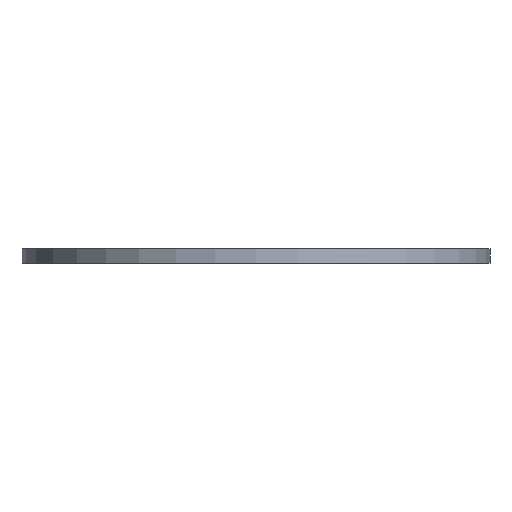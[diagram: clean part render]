
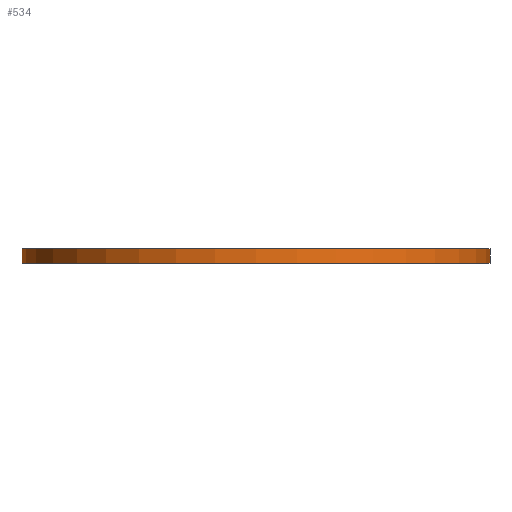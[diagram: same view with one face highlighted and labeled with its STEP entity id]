
A CAD part, front view. The second image highlights one B-rep face of the part: STEP entity #534.
In plain terms, the highlighted cylindrical face has radius 412.5 mm (diameter 825 mm), a full revolution.
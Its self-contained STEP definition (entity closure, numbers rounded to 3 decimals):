
#40=FACE_BOUND($,#170,.T.);
#118=FACE_OUTER_BOUND($,#169,.T.);
#169=EDGE_LOOP($,(#429));
#170=EDGE_LOOP($,(#430));
#273=CIRCLE($,#616,412.5);
#274=CIRCLE($,#617,412.5);
#325=VERTEX_POINT($,#909);
#326=VERTEX_POINT($,#911);
#377=EDGE_CURVE($,#325,#325,#273,.T.);
#378=EDGE_CURVE($,#326,#326,#274,.T.);
#429=ORIENTED_EDGE($,*,*,#377,.F.);
#430=ORIENTED_EDGE($,*,*,#378,.F.);
#508=CYLINDRICAL_SURFACE($,#615,412.5);
#534=ADVANCED_FACE($,(#118,#40),#508,.T.);
#615=AXIS2_PLACEMENT_3D($,#908,#772,#773);
#616=AXIS2_PLACEMENT_3D($,#910,#774,#775);
#617=AXIS2_PLACEMENT_3D($,#912,#776,#777);
#772=DIRECTION('center_axis',(0.,0.,1.));
#773=DIRECTION('ref_axis',(-1.,0.,0.));
#774=DIRECTION('center_axis',(0.,0.,1.));
#775=DIRECTION('ref_axis',(-1.,0.,0.));
#776=DIRECTION('center_axis',(0.,0.,-1.));
#777=DIRECTION('ref_axis',(-1.,0.,0.));
#908=CARTESIAN_POINT('Origin',(0.,0.,0.));
#909=CARTESIAN_POINT('',(412.5,0.,26.));
#910=CARTESIAN_POINT('Origin',(0.,0.,26.));
#911=CARTESIAN_POINT('',(412.5,0.,0.));
#912=CARTESIAN_POINT('Origin',(0.,0.,0.));
